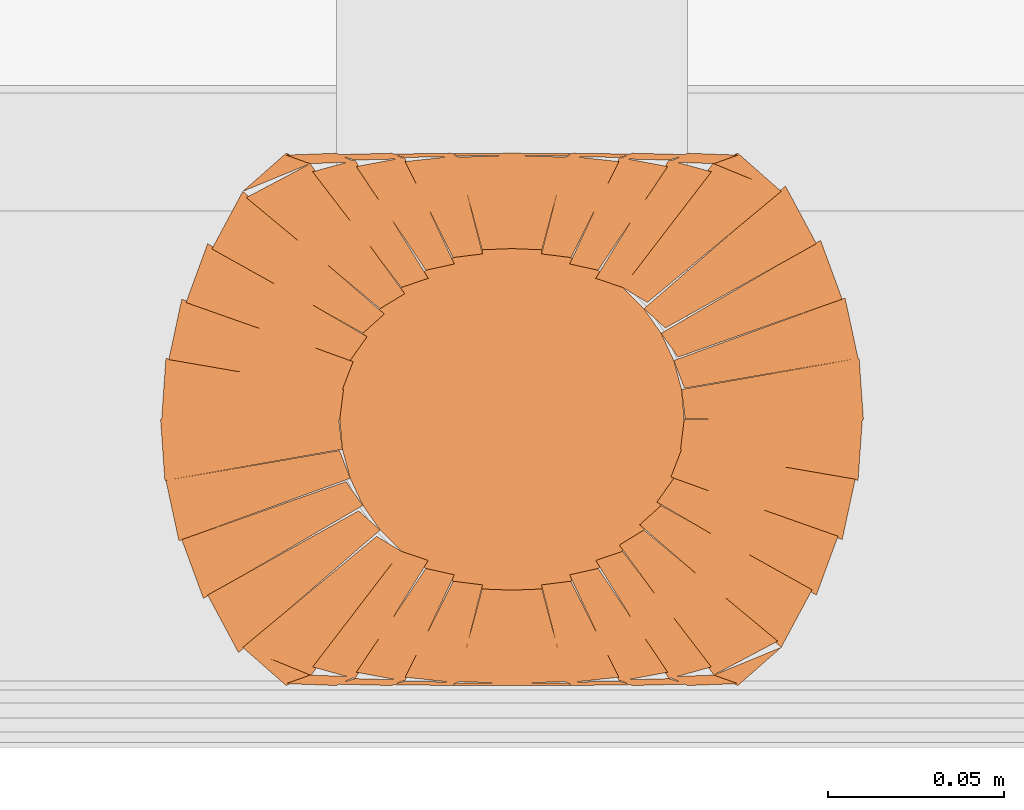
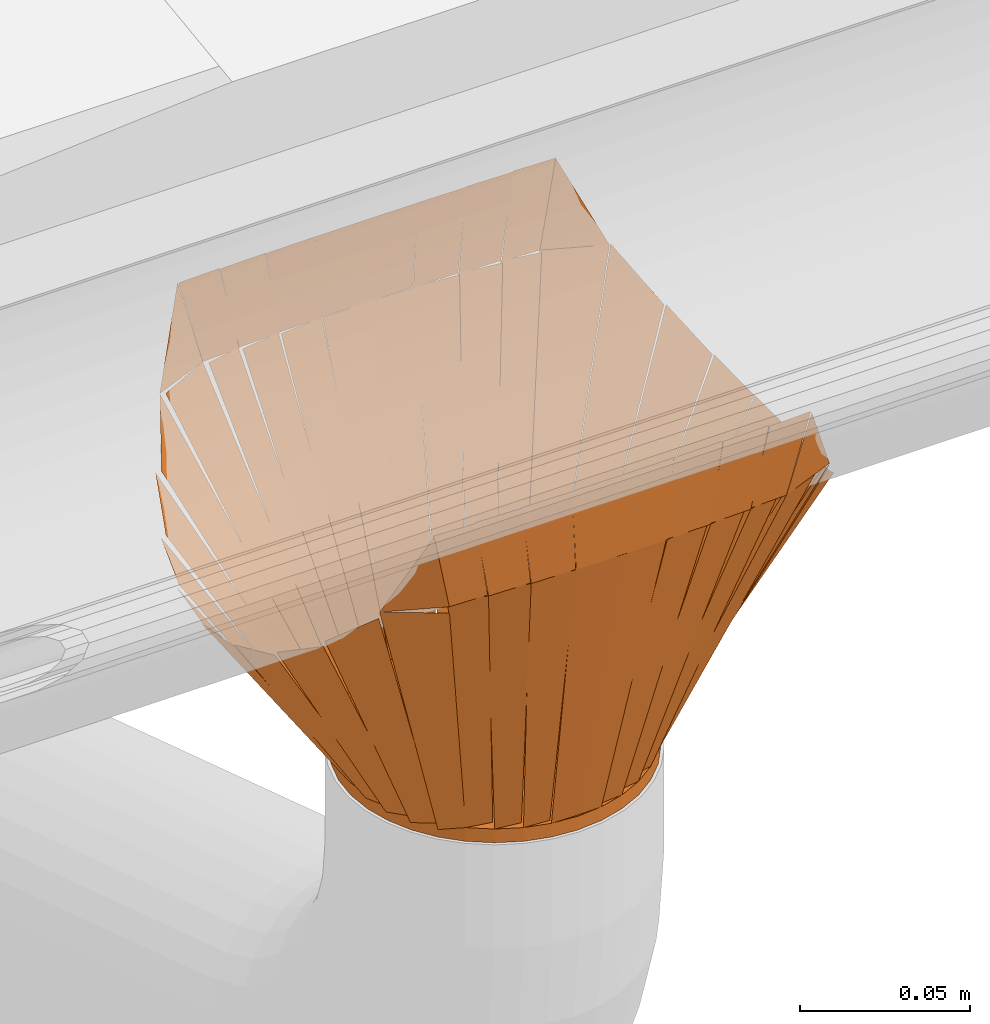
# One storey, part 41 of 43: 1 proxy.
"""IFC2X3 building model written with IfcOpenShell, lengths in millimetres."""

from ifc_helpers import new_model, si_unit, frame, origin_with_axes, place, context, project, spatial, faceted_brep, element, save


model = new_model("IFC2X3")

# Units and contexts
model_context = context("Model", 3, world=origin_with_axes())
ifc_project = project(units=[si_unit("LENGTHUNIT", "METRE", prefix="MILLI")], contexts=[model_context])

# Site, building, storey
site_placement = place(None, origin_with_axes())
site = spatial("IfcSite", under=ifc_project, at=site_placement, Name="Site", CompositionType="ELEMENT")
building_placement = place(site_placement, origin_with_axes())
building = spatial("IfcBuilding", under=site, at=building_placement, Name="?", CompositionType="ELEMENT")
storey_placement = place(building_placement, frame((0.0, 0.0, 5938.0), z_axis=(0.0, 0.0, 1.0), x_axis=(1.0, 0.0, 0.0)))
storey = spatial("IfcBuildingStorey", under=building, at=storey_placement, Name="Dachgeschoß", CompositionType="ELEMENT", Elevation=5938.0)

# Proxy
proxy_placement = place(None, origin_with_axes())
element("IfcBuildingElementProxy", 1, at=proxy_placement, inside=storey, Name="Dach01_Sump#001", ObjectType="sump", CompositionType="ELEMENT", context=model_context, shape_type="Brep", body=[
    faceted_brep([(18249.0, -8019.009765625, 6505.79443359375), (18299.6990978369, -8018.96774953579, 6580.93962337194), (18298.48080168, -8036.37456599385, 6582.73663250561), (18247.9546962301, -8027.47654971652, 6505.99742441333), (18248.255859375, -8027.51904296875, 6505.79443359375), (18297.6647741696, -8036.02260897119, 6583.29570176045), (18293.9695586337, -8053.21224305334, 6588.73663108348), (18245.2288745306, -8035.41680896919, 6506.3535043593), (18246.044921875, -8035.76904296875, 6505.79443359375), (18292.7674041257, -8052.25000875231, 6589.59595129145), (18286.6025228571, -8069.01004264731, 6599.73663675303), (18241.2333028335, -8042.54800840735, 6506.65374850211), (18242.435546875, -8043.509765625, 6505.79443359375), (18285.3921029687, -8067.50609625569, 6600.66517917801), (18276.6047487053, -8083.88856568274, 6615.73663103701), (18236.325800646, -8049.00269628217, 6506.72298136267), (18237.537109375, -8050.5068359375, 6505.79443359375), (18275.6290364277, -8082.11947794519, 6616.57727050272), (18257.4258092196, -8091.76293508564, 6615.73663044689), (18230.5212360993, -8054.77687912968, 6506.63507364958), (18231.49609375, -8056.54638671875, 6505.79443359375), (18256.7379413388, -8089.47369281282, 6616.57347435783), (18244.6681938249, -8092.78708786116, 6615.73663420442), (18223.8130411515, -8059.15619170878, 6506.63127382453), (18224.5, -8061.4453125, 6505.79443359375), (18244.3045005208, -8090.96330484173, 6616.28910531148), (18230.555199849, -8093.54171179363, 6615.7366356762), (18216.3948012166, -8063.2313055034, 6506.3469032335), (18216.759765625, -8065.0546875, 6505.79443359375), (18230.4218910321, -8092.37303624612, 6616.04275099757), (18215.5140656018, -8094.00358695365, 6615.73663149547), (18208.3754906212, -8066.09703670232, 6506.10055309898), (18208.509765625, -8067.265625, 6505.79443359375), (18215.4992198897, -8093.6022388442, 6615.83370153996), (18200.0009657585, -8094.1594249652, 6615.7366309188), (18199.9859201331, -8067.60843885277, 6505.89150420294), (18191.490234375, -8067.265625, 6505.79443359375), (18200.0140798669, -8067.60843885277, 6505.89150420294), (18199.9990342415, -8094.1594249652, 6615.7366309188), (18184.5007801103, -8093.6022388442, 6615.83370153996), (18183.240234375, -8065.0546875, 6505.79443359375), (18191.6245093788, -8066.09703670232, 6506.10055309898), (18184.4859343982, -8094.00358695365, 6615.73663149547), (18169.5781089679, -8092.37303624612, 6616.04275099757), (18175.5, -8061.4453125, 6505.79443359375), (18183.6051987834, -8063.2313055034, 6506.3469032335), (18169.444800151, -8093.54171179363, 6615.7366356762), (18155.6954994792, -8090.96330484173, 6616.28910531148), (18168.50390625, -8056.54638671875, 6505.79443359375), (18176.1869588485, -8059.15619170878, 6506.63127382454), (18155.3318061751, -8092.78708786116, 6615.73663420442), (18143.2620586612, -8089.47369281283, 6616.57347435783), (18168.50390625, -8056.54638671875, 6505.79443359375), (18141.5993331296, -8093.53244267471, 6614.89599039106), (18123.3961059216, -8083.88898553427, 6615.73663044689), (18161.4880329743, -8052.27634352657, 6504.95379353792), (18162.462890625, -8050.5068359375, 6505.79443359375), (18122.1839425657, -8085.39270533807, 6614.80808326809), (18113.3965883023, -8069.01023591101, 6599.73663140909), (18156.353144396, -8045.01390528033, 6504.86588582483), (18157.564453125, -8043.509765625, 6505.79443359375), (18112.1952331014, -8069.97179986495, 6598.87732184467), (18106.0303518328, -8053.21176596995, 6588.7366363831), (18152.7528340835, -8036.73080018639, 6504.93511868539), (18153.955078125, -8035.76904296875, 6505.79443359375), (18105.2143879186, -8053.56448226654, 6588.17755842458), (18101.51918083, -8036.37494297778, 6582.73663496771), (18150.9280854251, -8027.87128188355, 6505.23535685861), (18151.744140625, -8027.51904296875, 6505.79443359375), (18101.2180414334, -8036.41715820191, 6582.5336459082), (18099.999742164, -8019.01024322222, 6580.73663465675), (18150.6988399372, -8019.0522587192, 6505.59144481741), (18151.0, -8019.009765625, 6505.79443359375), (18100.3008967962, -8019.0517809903, 6580.93961803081), (18101.5191994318, -8001.64496540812, 6582.73663139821), (18152.0452974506, -8010.54308088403, 6505.99742015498), (18151.744140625, -8010.50146484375, 6505.79443359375), (18102.3352433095, -8001.99780535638, 6583.29571912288), (18106.0304404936, -7984.80816491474, 6588.7366358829), (18154.771143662, -8002.60360535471, 6506.35351666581), (18153.955078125, -8002.2509765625, 6505.79443359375), (18107.2326202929, -7985.77001649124, 6589.59596421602), (18113.3973788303, -7969.00997522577, 6599.73663640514), (18158.7666193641, -7995.47201716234, 6506.65376173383), (18157.564453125, -7994.509765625, 6505.79443359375), (18114.6078821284, -7970.5134274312, 6600.66517290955), (18123.3952541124, -7954.13106388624, 6615.73663441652), (18163.6742815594, -7989.01682850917, 6506.72297220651), (18162.462890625, -7987.51318359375, 6505.79443359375), (18124.3708588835, -7955.90061803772, 6616.5772624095), (18142.5740907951, -7946.25708315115, 6615.7366306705), (18169.4787585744, -7983.24311841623, 6506.63506533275), (18168.50390625, -7981.4736328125, 6505.79443359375), (18143.2619582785, -7948.54633724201, 6616.5734784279), (18155.331806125, -7945.23293151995, 6615.73663476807), (18176.186958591, -7978.86383842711, 6506.63127727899), (18175.5, -7976.57470703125, 6505.79443359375), (18155.6954994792, -7947.05671468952, 6616.28910531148), (18169.444800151, -7944.47830773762, 6615.73663567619), (18183.6051987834, -7974.78871402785, 6506.3469032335), (18183.240234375, -7972.96533203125, 6505.79443359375), (18169.5781089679, -7945.64698328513, 6616.04275099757), (18184.4859343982, -7944.0164325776, 6615.73663149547), (18191.6245093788, -7971.92298282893, 6506.10055309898), (18191.490234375, -7970.75439453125, 6505.79443359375), (18184.5007801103, -7944.41778068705, 6615.83370153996), (18199.9990342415, -7943.86059456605, 6615.7366309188), (18200.0140798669, -7970.41158067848, 6505.89150420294), (18208.5078125, -7970.75439453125, 6505.79443359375), (18199.9840667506, -7970.41158169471, 6505.89150445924), (18199.9991125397, -7943.86059390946, 6615.73663117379), (18215.4972666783, -7944.41778105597, 6615.83370203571), (18216.759765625, -7972.96533203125, 6505.79443359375), (18208.3753918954, -7971.9229761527, 6506.10055124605), (18215.5139655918, -7944.01643257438, 6615.73663560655), (18230.4217924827, -7945.64697661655, 6616.04275325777), (18224.5, -7976.57470703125, 6505.79443359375), (18216.3948196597, -7974.78876123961, 6506.34688478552), (18230.5551001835, -7944.47840597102, 6615.73663578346), (18244.3044205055, -7947.05676005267, 6616.28908697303), (18231.49609375, -7981.4736328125, 6505.79443359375), (18223.8130158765, -7978.86378505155, 6506.63129507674), (18244.6680938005, -7945.23293253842, 6615.73663264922), (18256.7379160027, -7948.5463849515, 6616.57349410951), (18231.49609375, -7981.4736328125, 6505.79443359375), (18258.4006668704, -7944.48757685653, 6614.89599039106), (18276.6038940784, -7954.13103399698, 6615.73663044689), (18238.5119670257, -7985.74367600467, 6504.95379353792), (18237.537109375, -7987.51318359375, 6505.79443359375), (18277.8160624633, -7952.62729514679, 6614.80807921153), (18286.6034088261, -7969.00968397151, 6599.73663630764), (18243.6468637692, -7993.00609461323, 6504.86587603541), (18242.435546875, -7994.509765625, 6505.79443359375), (18287.804754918, -7968.04764707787, 6598.87732511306), (18293.9695478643, -7984.80766642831, 6588.73663091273), (18247.2471539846, -8001.28874634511, 6504.93512814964), (18246.044921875, -8002.2509765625, 6505.79443359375), (18294.7855272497, -7984.45543169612, 6588.17755185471), (18298.4808237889, -8001.64507657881, 6582.73663560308), (18249.071924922, -8010.14873100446, 6505.23534983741), (18248.255859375, -8010.5009765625, 6505.79443359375), (18298.7819585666, -8001.60286132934, 6582.5336459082), (18300.000257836, -8019.00977630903, 6580.73663465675), (18249.3011600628, -8018.96776081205, 6505.59144481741), (18257.42578125, -8091.7626953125, 6615.73681640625), (18276.6052818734, -8083.88879484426, 6615.73681640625), (18264.2796814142, -8094.74999532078, 6645.00681565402), (18250.0, -8094.75, 6645.0068359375), (18244.6484095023, -8092.25130511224, 6615.78635135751), (18257.4248998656, -8091.76269994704, 6615.73683557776), (18264.2585091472, -8094.21440517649, 6645.05635171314), (18234.201171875, -8094.75, 6645.0068359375), (18230.5443549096, -8093.14458950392, 6615.75988077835), (18244.6678717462, -8092.78689999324, 6615.73683581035), (18249.9891546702, -8094.35298953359, 6645.02988090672), (18217.365234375, -8094.75, 6645.0068359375), (18215.5102000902, -8093.76003104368, 6615.74530691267), (18230.5556343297, -8093.54160002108, 6615.73683572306), (18234.198900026, -8094.506231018, 6645.01530712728), (18200.0, -8094.75, 6645.0068359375), (18199.9996112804, -8094.0772640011, 6615.73872357), (18215.5132998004, -8094.00380000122, 6615.73683564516), (18217.364411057, -8094.66786399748, 6645.0087238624), (18184.486328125, -8094.00390625, 6615.73681640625), (18200.000016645, -8094.07737024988, 6615.73870433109), (18199.9996279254, -8094.75010624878, 6645.00681669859), (18182.6352168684, -8094.66797024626, 6645.00870462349), (18169.4453125, -8093.54150390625, 6615.73681640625), (18184.4907467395, -8093.75993492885, 6615.74528759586), (18182.6357124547, -8094.74990388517, 6645.00681662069), (18165.8020468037, -8094.50613490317, 6645.01528781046), (18155.33203125, -8092.787109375, 6615.73681640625), (18169.4555480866, -8093.14479888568, 6615.75986137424), (18165.7987311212, -8094.75020938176, 6645.0068165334), (18150.010748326, -8094.35319891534, 6645.02986150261), (18142.57421875, -8091.7626953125, 6615.73681640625), (18155.3507091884, -8092.25130223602, 6615.7863320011), (18149.9991186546, -8094.74999529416, 6645.00681666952), (18135.7407094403, -8094.21440225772, 6645.05633226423), (18123.396484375, -8083.888671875, 6615.73681640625), (18142.5759849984, -8091.76257234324, 6615.73681640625), (18135.722184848, -8094.74987219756, 6645.00681601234), (18142.57421875, -7946.25732421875, 6615.73681640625), (18123.3947188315, -7954.13132437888, 6615.73681640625), (18135.720418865, -7943.27002445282, 6645.00681658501), (18150.0, -7943.27001953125, 6645.0068359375), (18155.3515903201, -7945.76871232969, 6615.7863513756), (18142.5750001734, -7946.25731946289, 6615.73683583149), (18135.741490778, -7943.80561239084, 6645.05635148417), (18165.798828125, -7943.27001953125, 6645.0068359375), (18169.4556450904, -7944.87543002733, 6615.75988077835), (18155.3321282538, -7945.23311953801, 6615.73683581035), (18150.0108453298, -7943.66702999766, 6645.02988090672), (18182.634765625, -7943.27001953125, 6645.0068359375), (18184.4898999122, -7944.25998782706, 6615.74530686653), (18169.4444656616, -7944.47841953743, 6615.73683569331), (18165.8011999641, -7943.51378783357, 6645.01530711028), (18200.0, -7943.27001953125, 6645.0068359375), (18200.0003887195, -7943.94275574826, 6615.73872357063), (18184.4867002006, -7944.01621952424, 6615.73683563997), (18182.635488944, -7943.35215575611, 6645.00872386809), (18215.513671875, -7944.01611328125, 6615.73681640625), (18200.0000833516, -7943.94264953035, 6615.73870433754), (18200.0004720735, -7943.26991325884, 6645.00681670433), (18217.3648831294, -7943.35204951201, 6645.00870463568), (18230.5546875, -7944.478515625, 6615.73681640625), (18215.5092532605, -7944.26008460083, 6615.74528760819), (18217.3643875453, -7943.27011567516, 6645.00681667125), (18234.1980531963, -7943.51388465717, 6645.01528787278), (18244.66796875, -7945.23291015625, 6615.73681640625), (18230.54445188, -7944.87521945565, 6615.75986132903), (18234.2013688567, -7943.26981014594, 6645.00681662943), (18249.9892516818, -7943.66681942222, 6645.02986155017), (18257.42578125, -7946.25732421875, 6615.73681640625), (18244.6491911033, -7945.76871708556, 6615.78633195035), (18250.0007814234, -7943.27002428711, 6645.00681651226), (18264.2592906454, -7943.8056171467, 6645.05633205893), (18276.603515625, -7954.13134765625, 6615.73681640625), (18257.4240150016, -7946.25744718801, 6615.73681640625), (18264.2778151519, -7943.27014733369, 6645.00681601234), (18249.0, -8019.009765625, 6500.82470703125), (18249.0, -8019.009765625, 6505.79470703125), (18248.2555999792, -8027.518565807, 6505.79470703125), (18248.2555999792, -8027.518565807, 6500.82470703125), (18248.255859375, -8027.51904296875, 6500.82470703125), (18248.255859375, -8027.51904296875, 6505.79470703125), (18246.0451594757, -8035.7692429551, 6505.79470703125), (18246.0451594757, -8035.7692429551, 6500.82470703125), (18246.044921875, -8035.76904296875, 6500.82470703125), (18246.044921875, -8035.76904296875, 6505.79470703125), (18242.4352218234, -8043.51004288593, 6505.79470703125), (18242.4352218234, -8043.51004288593, 6500.82470703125), (18242.435546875, -8043.509765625, 6500.82470703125), (18242.435546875, -8043.509765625, 6505.79470703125), (18237.5365467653, -8050.50636547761, 6505.79470703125), (18237.5365467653, -8050.50636547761, 6500.82470703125), (18237.537109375, -8050.5068359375, 6500.82470703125), (18237.537109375, -8050.5068359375, 6505.79470703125), (18231.4975094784, -8056.54643583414, 6505.79470703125), (18231.4975094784, -8056.54643583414, 6500.82470703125), (18231.49609375, -8056.54638671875, 6500.82470703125), (18231.49609375, -8056.54638671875, 6505.79470703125), (18224.4994938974, -8061.44538682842, 6505.79470703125), (18224.4994938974, -8061.44538682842, 6500.82470703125), (18224.5, -8061.4453125, 6500.82470703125), (18224.5, -8061.4453125, 6505.79470703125), (18216.7590000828, -8065.05501255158, 6505.79470703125), (18216.7590000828, -8065.05501255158, 6500.82470703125), (18216.759765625, -8065.0546875, 6500.82470703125), (18216.759765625, -8065.0546875, 6505.79470703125), (18208.5095656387, -8067.26538739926, 6505.79470703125), (18208.5095656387, -8067.26538739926, 6500.82470703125), (18208.509765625, -8067.265625, 6500.82470703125), (18208.509765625, -8067.265625, 6505.79470703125), (18200.000965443, -8068.01002502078, 6505.79470703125), (18200.000965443, -8068.01002502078, 6500.82470703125), (18200.0, -8068.009765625, 6500.82470703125), (18200.0, -8068.009765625, 6505.79470703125), (18191.491199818, -8067.26536560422, 6505.79470703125), (18191.491199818, -8067.26536560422, 6500.82470703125), (18191.490234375, -8067.265625, 6500.82470703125), (18191.490234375, -8067.265625, 6505.79470703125), (18183.2400343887, -8065.05492510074, 6505.79470703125), (18183.2400343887, -8065.05492510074, 6500.82470703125), (18183.240234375, -8065.0546875, 6500.82470703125), (18183.240234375, -8065.0546875, 6505.79470703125), (18175.4992344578, -8061.44498744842, 6505.79470703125), (18175.4992344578, -8061.44498744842, 6500.82470703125), (18175.5, -8061.4453125, 6500.82470703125), (18175.5, -8061.4453125, 6505.79470703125), (18168.5034001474, -8056.54631239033, 6505.79470703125), (18168.5034001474, -8056.54631239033, 6500.82470703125), (18168.50390625, -8056.54638671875, 6500.82470703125), (18168.50390625, -8056.54638671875, 6505.79470703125), (18162.4643063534, -8050.50678682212, 6505.79470703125), (18162.4643063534, -8050.50678682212, 6500.82470703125), (18162.462890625, -8050.5068359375, 6500.82470703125), (18162.462890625, -8050.5068359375, 6505.79470703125), (18157.5638905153, -8043.51023608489, 6505.79470703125), (18157.5638905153, -8043.51023608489, 6500.82470703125), (18157.564453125, -8043.509765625, 6500.82470703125), (18157.564453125, -8043.509765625, 6505.79470703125), (18153.9547530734, -8035.76876570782, 6505.79470703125), (18153.9547530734, -8035.76876570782, 6500.82470703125), (18153.955078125, -8035.76904296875, 6500.82470703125), (18153.955078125, -8035.76904296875, 6505.79470703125), (18151.7443782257, -8027.51884298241, 6505.79470703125), (18151.7443782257, -8027.51884298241, 6500.82470703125), (18151.744140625, -8027.51904296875, 6500.82470703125), (18151.744140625, -8027.51904296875, 6505.79470703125), (18150.9997406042, -8019.01024278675, 6505.79470703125), (18150.9997406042, -8019.01024278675, 6500.82470703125), (18151.0, -8019.009765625, 6500.82470703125), (18151.0, -8019.009765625, 6505.79470703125), (18151.7443999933, -8010.50106570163, 6505.79470703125), (18151.7443999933, -8010.50106570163, 6500.82470703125), (18151.744140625, -8010.50146484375, 6500.82470703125), (18151.744140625, -8010.50146484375, 6505.79470703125), (18153.9548405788, -8002.25116493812, 6505.79470703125), (18153.9548405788, -8002.25116493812, 6500.82470703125), (18153.955078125, -8002.2509765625, 6500.82470703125), (18153.955078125, -8002.2509765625, 6505.79470703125), (18157.5646780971, -7994.509976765, 6505.79470703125), (18157.5646780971, -7994.509976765, 6500.82470703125), (18157.564453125, -7994.509765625, 6500.82470703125), (18157.564453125, -7994.509765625, 6505.79470703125), (18162.4635533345, -7987.51316562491, 6505.79470703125), (18162.4635533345, -7987.51316562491, 6500.82470703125), (18162.462890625, -7987.51318359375, 6500.82470703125), (18162.462890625, -7987.51318359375, 6505.79470703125), (18168.5024905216, -7981.47358369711, 6505.79470703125), (18168.5024905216, -7981.47358369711, 6500.82470703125), (18168.50390625, -7981.4736328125, 6500.82470703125), (18168.50390625, -7981.4736328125, 6505.79470703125), (18175.5005061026, -7976.57463270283, 6505.79470703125), (18175.5005061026, -7976.57463270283, 6500.82470703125), (18175.5, -7976.57470703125, 6500.82470703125), (18175.5, -7976.57470703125, 6505.79470703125), (18183.2409999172, -7972.96500697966, 6505.79470703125), (18183.2409999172, -7972.96500697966, 6500.82470703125), (18183.240234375, -7972.96533203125, 6500.82470703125), (18183.240234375, -7972.96533203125, 6505.79470703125), (18191.4904343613, -7970.75463213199, 6505.79470703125), (18191.4904343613, -7970.75463213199, 6500.82470703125), (18191.490234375, -7970.75439453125, 6500.82470703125), (18191.490234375, -7970.75439453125, 6505.79470703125), (18199.999034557, -7970.00999451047, 6505.79470703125), (18199.999034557, -7970.00999451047, 6500.82470703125), (18200.0, -7970.009765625, 6500.82470703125), (18200.0, -7970.009765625, 6505.79470703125), (18208.5086999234, -7970.75416561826, 6505.79470703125), (18208.5086999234, -7970.75416561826, 6500.82470703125), (18208.5078125, -7970.75439453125, 6500.82470703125), (18208.5078000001, -7970.75444118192, 6505.79470703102), (18216.7581126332, -7972.96509455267, 6505.79470703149), (18216.7581001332, -7972.96504120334, 6500.82470703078), (18216.759765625, -7972.96484375, 6500.82470703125), (18216.759784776, -7972.96490268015, 6505.79470703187), (18224.5007657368, -7976.57454363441, 6505.79470703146), (18224.5007848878, -7976.57450256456, 6500.82470703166), (18224.5, -7976.57470703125, 6500.82470703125), (18224.5, -7976.57470703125, 6505.79470703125), (18231.4966000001, -7981.47380724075, 6505.79470703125), (18231.4966000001, -7981.47380724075, 6500.82470703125), (18231.49609375, -7981.4736328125, 6500.82470703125), (18231.49609375, -7981.4736328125, 6505.79470703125), (18237.5356936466, -7987.51323270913, 6505.79470703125), (18237.5356936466, -7987.51323270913, 6500.82470703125), (18237.537109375, -7987.51318359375, 6500.82470703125), (18237.537109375, -7987.51318359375, 6505.79470703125), (18242.4361094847, -7994.50978344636, 6505.79470703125), (18242.4361094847, -7994.50978344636, 6500.82470703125), (18242.435546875, -7994.509765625, 6500.82470703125), (18242.435546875, -7994.509765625, 6505.79470703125), (18246.0452469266, -8002.25076554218, 6505.79470703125), (18246.0452469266, -8002.25076554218, 6500.82470703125), (18246.044921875, -8002.2509765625, 6500.82470703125), (18246.044921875, -8002.2509765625, 6505.79470703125), (18248.2556217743, -8010.50117654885, 6505.79470703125), (18248.2556217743, -8010.50117654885, 6500.82470703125), (18248.255859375, -8010.5009765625, 6500.82470703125), (18248.255859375, -8010.5009765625, 6505.79470703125), (18249.0002593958, -8019.00977674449, 6505.79470703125), (18249.0002593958, -8019.00977674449, 6500.82470703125), (18246.044921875, -8002.2509765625, 6500.82470703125), (18249.000021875, -8019.0099765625, 6500.82470703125), (18237.536221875, -7987.5133765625, 6500.82470703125), (18242.435221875, -7994.5099765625, 6500.82470703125), (18237.537109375, -7987.51318359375, 6500.82470703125), (18208.509609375, -7970.75418359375, 6500.82470703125), (18224.500909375, -7976.57448359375, 6500.82470703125), (18231.497509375, -7981.47358359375, 6500.82470703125), (18224.5, -7976.57470703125, 6500.82470703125), (18208.5087, -7970.75440703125, 6500.82470703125), (18216.759, -7972.96500703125, 6500.82470703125), (18208.5078125, -7970.75439453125, 6500.82470703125), (18175.4991125, -7976.57479453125, 6500.82470703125), (18191.4903125, -7970.75439453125, 6500.82470703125), (18199.9991125, -7970.00999453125, 6500.82470703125), (18191.490234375, -7970.75439453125, 6500.82470703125), (18175.499034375, -7976.57479453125, 6500.82470703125), (18183.240034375, -7972.96509453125, 6500.82470703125), (18175.5, -7976.57470703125, 6500.82470703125), (18153.9551, -8002.25090703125, 6500.82470703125), (18162.4638, -7987.51330703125, 6500.82470703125), (18168.5034, -7981.47370703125, 6500.82470703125), (18162.462890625, -7987.51318359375, 6500.82470703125), (18153.954190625, -8002.25078359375, 6500.82470703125), (18157.563790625, -7994.50978359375, 6500.82470703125), (18208.5078125, -7970.75439453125, 6500.82470703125), (18237.5353125, -8050.50659453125, 6500.82470703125), (18153.9542125, -8002.25099453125, 6500.82470703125), (18175.4991125, -7976.57479453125, 6500.82470703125), (18153.955078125, -8002.2509765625, 6500.82470703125), (18153.955078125, -8035.7689765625, 6500.82470703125), (18150.999978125, -8019.0099765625, 6500.82470703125), (18151.744378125, -8010.5012765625, 6500.82470703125), (18151.0, -8019.009765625, 6500.82470703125), (18153.9551, -8035.768765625, 6500.82470703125), (18151.7444, -8027.518565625, 6500.82470703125), (18153.955078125, -8035.76904296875, 6500.82470703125), (18175.499978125, -8061.44524296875, 6500.82470703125), (18162.463778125, -8050.50664296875, 6500.82470703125), (18157.564778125, -8043.51004296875, 6500.82470703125), (18162.462890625, -8050.5068359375, 6500.82470703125), (18175.499090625, -8061.4454359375, 6500.82470703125), (18168.502490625, -8056.5464359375, 6500.82470703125), (18153.955078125, -8002.2509765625, 6500.82470703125), (18237.536178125, -8050.5065765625, 6500.82470703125), (18175.499978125, -8061.4451765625, 6500.82470703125), (18153.955078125, -8035.7689765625, 6500.82470703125), (18175.5, -8061.4453125, 6500.82470703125), (18208.5088, -8067.2657125, 6500.82470703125), (18191.4912, -8067.2657125, 6500.82470703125), (18183.241, -8065.0550125, 6500.82470703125), (18191.490234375, -8067.265625, 6500.82470703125), (18208.507834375, -8067.265625, 6500.82470703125), (18199.999034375, -8068.010025, 6500.82470703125), (18208.509765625, -8067.265625, 6500.82470703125), (18237.537165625, -8050.506625, 6500.82470703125), (18224.500965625, -8061.445225, 6500.82470703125), (18216.759965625, -8065.054925, 6500.82470703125), (18224.5, -8061.4453125, 6500.82470703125), (18237.5362, -8050.5067125, 6500.82470703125), (18231.4966, -8056.5463125, 6500.82470703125), (18175.5, -8061.4453125, 6500.82470703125), (18237.5362, -8050.5067125, 6500.82470703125), (18208.5088, -8067.2657125, 6500.82470703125), (18237.537109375, -8050.5068359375, 6500.82470703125), (18249.000909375, -8019.0102359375, 6500.82470703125), (18246.045809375, -8035.7692359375, 6500.82470703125), (18242.436109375, -8043.5102359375, 6500.82470703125), (18246.044921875, -8035.76904296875, 6500.82470703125), (18249.000021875, -8019.01004296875, 6500.82470703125), (18248.255621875, -8027.51884296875, 6500.82470703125), (18208.5078125, -7970.75439453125, 6500.82470703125), (18237.5353125, -7987.51339453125, 6500.82470703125), (18248.9991125, -8019.00999453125, 6500.82470703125), (18237.5353125, -8050.50659453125, 6500.82470703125), (18248.255859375, -8010.5009765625, 6500.82470703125), (18249.000259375, -8019.0097765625, 6500.82470703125), (18246.045159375, -8002.2507765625, 6500.82470703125), (18248.255859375, -8027.51904296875, 6505.79443359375), (18248.255859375, -8010.50144296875, 6505.79443359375), (18242.435459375, -8043.51024296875, 6505.79443359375), (18246.045159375, -8035.76924296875, 6505.79443359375), (18242.435546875, -8043.509765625, 6505.79443359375), (18216.759346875, -8065.054665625, 6505.79443359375), (18231.496946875, -8056.545965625, 6505.79443359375), (18237.536546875, -8050.506365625, 6505.79443359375), (18231.49609375, -8056.54638671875, 6505.79443359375), (18216.75849375, -8065.05508671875, 6505.79443359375), (18224.49949375, -8061.44538671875, 6505.79443359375), (18216.759765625, -8065.0546875, 6505.79443359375), (18183.241765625, -8065.0546875, 6505.79443359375), (18200.000765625, -8068.0097875, 6505.79443359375), (18208.509565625, -8067.2653875, 6505.79443359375), (18200.0, -8068.009765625, 6505.79443359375), (18183.241, -8065.054665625, 6505.79443359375), (18191.4912, -8067.265365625, 6505.79443359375), (18183.240234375, -8065.0546875, 6505.79443359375), (18157.564034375, -8043.5097875, 6505.79443359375), (18168.502634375, -8056.5459875, 6505.79443359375), (18175.499234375, -8061.4449875, 6505.79443359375), (18168.50390625, -8056.54638671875, 6505.79443359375), (18157.56530625, -8043.51018671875, 6505.79443359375), (18162.46430625, -8050.50678671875, 6505.79443359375), (18216.759765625, -8065.0546875, 6505.79443359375), (18231.497365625, -7981.4735875, 6505.79443359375), (18157.565565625, -8043.5097875, 6505.79443359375), (18183.241765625, -8065.0546875, 6505.79443359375), (18157.564453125, -8043.509765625, 6505.79443359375), (18151.744053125, -8010.501065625, 6505.79443359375), (18151.744053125, -8027.518565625, 6505.79443359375), (18153.954753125, -8035.768765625, 6505.79443359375), (18151.744140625, -8027.51904296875, 6505.79443359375), (18151.744140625, -8010.50154296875, 6505.79443359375), (18150.999740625, -8019.01024296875, 6505.79443359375), (18151.744140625, -8010.50146484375, 6505.79443359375), (18168.503140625, -7981.47396484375, 6505.79443359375), (18157.564440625, -7994.51016484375, 6505.79443359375), (18153.954840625, -8002.25116484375, 6505.79443359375), (18157.564453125, -7994.509765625, 6505.79443359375), (18168.503153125, -7981.473565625, 6505.79443359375), (18162.463553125, -7987.513165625, 6505.79443359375), (18157.564453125, -8043.509765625, 6505.79443359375), (18231.496253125, -7981.473565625, 6505.79443359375), (18168.503053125, -7981.473565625, 6505.79443359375), (18151.744053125, -8010.501065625, 6505.79443359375), (18168.50390625, -7981.4736328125, 6505.79443359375), (18200.00050625, -7970.0098328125, 6505.79443359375), (18183.24150625, -7972.9649328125, 6505.79443359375), (18175.50050625, -7976.5746328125, 6505.79443359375), (18183.240234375, -7972.96533203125, 6505.79443359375), (18199.999234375, -7970.01023203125, 6505.79443359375), (18191.490434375, -7970.75463203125, 6505.79443359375), (18200.0, -7970.009765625, 6505.79443359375), (18231.4966, -7981.473565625, 6505.79443359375), (18216.759, -7972.964865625, 6505.79443359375), (18208.5087, -7970.754165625, 6505.79443359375), (18216.759765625, -7972.96533203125, 6505.79443359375), (18231.497365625, -7981.47403203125, 6505.79443359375), (18224.500765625, -7976.57493203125, 6505.79443359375), (18168.50390625, -7981.4736328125, 6505.79443359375), (18231.49710625, -7981.4736328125, 6505.79443359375), (18200.00050625, -7970.0098328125, 6505.79443359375), (18231.49609375, -7981.4736328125, 6505.79443359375), (18248.25509375, -8010.5010328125, 6505.79443359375), (18242.43469375, -7994.5098328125, 6505.79443359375), (18237.53569375, -7987.5132328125, 6505.79443359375), (18242.435546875, -7994.509765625, 6505.79443359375), (18248.255946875, -8010.500965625, 6505.79443359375), (18246.045246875, -8002.250765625, 6505.79443359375), (18216.759765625, -8065.0546875, 6505.79443359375), (18242.435965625, -8043.5097875, 6505.79443359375), (18248.256365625, -8010.5009875, 6505.79443359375), (18231.497365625, -7981.4735875, 6505.79443359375), (18249.0, -8019.009765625, 6505.79443359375), (18248.2556, -8010.500965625, 6505.79443359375), (18248.2556, -8027.518565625, 6505.79443359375)], [[[0, 1, 2, 3]], [[4, 5, 6, 7]], [[8, 9, 10, 11]], [[12, 13, 14, 15]], [[16, 17, 18, 19]], [[20, 21, 22, 23]], [[24, 25, 26, 27]], [[28, 29, 30, 31]], [[32, 33, 34, 35]], [[36, 37, 38, 39]], [[40, 41, 42, 43]], [[44, 45, 46, 47]], [[48, 49, 50, 51]], [[52, 53, 54, 55]], [[56, 57, 58, 59]], [[60, 61, 62, 63]], [[64, 65, 66, 67]], [[68, 69, 70, 71]], [[72, 73, 74, 75]], [[76, 77, 78, 79]], [[80, 81, 82, 83]], [[84, 85, 86, 87]], [[88, 89, 90, 91]], [[92, 93, 94, 95]], [[96, 97, 98, 99]], [[100, 101, 102, 103]], [[104, 105, 106, 107]], [[108, 109, 110, 111]], [[112, 113, 114, 115]], [[116, 117, 118, 119]], [[120, 121, 122, 123]], [[124, 125, 126, 127]], [[128, 129, 130, 131]], [[132, 133, 134, 135]], [[136, 137, 138, 139]], [[140, 141, 142, 143]], [[144, 145, 146]], [[147, 148, 149, 150]], [[151, 152, 153, 154]], [[155, 156, 157, 158]], [[159, 160, 161, 162]], [[163, 164, 165, 166]], [[167, 168, 169, 170]], [[171, 172, 173, 174]], [[175, 176, 177, 178]], [[179, 180, 181]], [[182, 183, 184]], [[185, 186, 187, 188]], [[189, 190, 191, 192]], [[193, 194, 195, 196]], [[197, 198, 199, 200]], [[201, 202, 203, 204]], [[205, 206, 207, 208]], [[209, 210, 211, 212]], [[213, 214, 215, 216]], [[217, 218, 219]], [[220, 221, 222, 223]], [[224, 225, 226, 227]], [[228, 229, 230, 231]], [[232, 233, 234, 235]], [[236, 237, 238, 239]], [[240, 241, 242, 243]], [[244, 245, 246, 247]], [[248, 249, 250, 251]], [[252, 253, 254, 255]], [[256, 257, 258, 259]], [[260, 261, 262, 263]], [[264, 265, 266, 267]], [[268, 269, 270, 271]], [[272, 273, 274, 275]], [[276, 277, 278, 279]], [[280, 281, 282, 283]], [[284, 285, 286, 287]], [[288, 289, 290, 291]], [[292, 293, 294, 295]], [[296, 297, 298, 299]], [[300, 301, 302, 303]], [[304, 305, 306, 307]], [[308, 309, 310, 311]], [[312, 313, 314, 315]], [[316, 317, 318, 319]], [[320, 321, 322, 323]], [[324, 325, 326, 327]], [[328, 329, 330, 331]], [[332, 333, 334, 335]], [[336, 337, 338, 339]], [[340, 341, 342, 343]], [[344, 345, 346, 347]], [[348, 349, 350, 351]], [[352, 353, 354, 355]], [[356, 357, 358, 359]], [[360, 361, 362, 363]], [[364, 365, 366, 367]], [[368, 369, 370, 371]], [[372, 373, 374]], [[375, 376, 377, 378]], [[379, 380, 381]], [[382, 383, 384, 385]], [[386, 387, 388]], [[389, 390, 391, 392]], [[393, 394, 395, 396]], [[397, 398, 399]], [[400, 401, 402, 403]], [[404, 405, 406]], [[407, 408, 409, 410]], [[411, 412, 413, 414]], [[415, 416, 417]], [[418, 419, 420, 421]], [[422, 423, 424]], [[425, 426, 427]], [[428, 429, 430, 431]], [[432, 433, 434]], [[435, 436, 437, 438]], [[439, 440, 441]], [[442, 443, 444, 445]], [[446, 447, 448, 449]], [[450, 451, 452]], [[453, 454, 455, 456]], [[457, 458, 459]], [[460, 461, 462, 463]], [[464, 465, 466]], [[467, 468, 469, 470]], [[471, 472, 473, 474]], [[475, 476, 477]], [[478, 479, 480, 481]], [[482, 483, 484]], [[485, 486, 487, 488]], [[489, 490, 491, 492]], [[493, 494, 495]], [[496, 497, 498, 499]], [[500, 501, 502]], [[503, 504, 505]], [[506, 507, 508, 509]], [[510, 511, 512]], [[513, 514, 515, 516]], [[517, 518, 519]]]),
])

save(model, "model.ifc")
